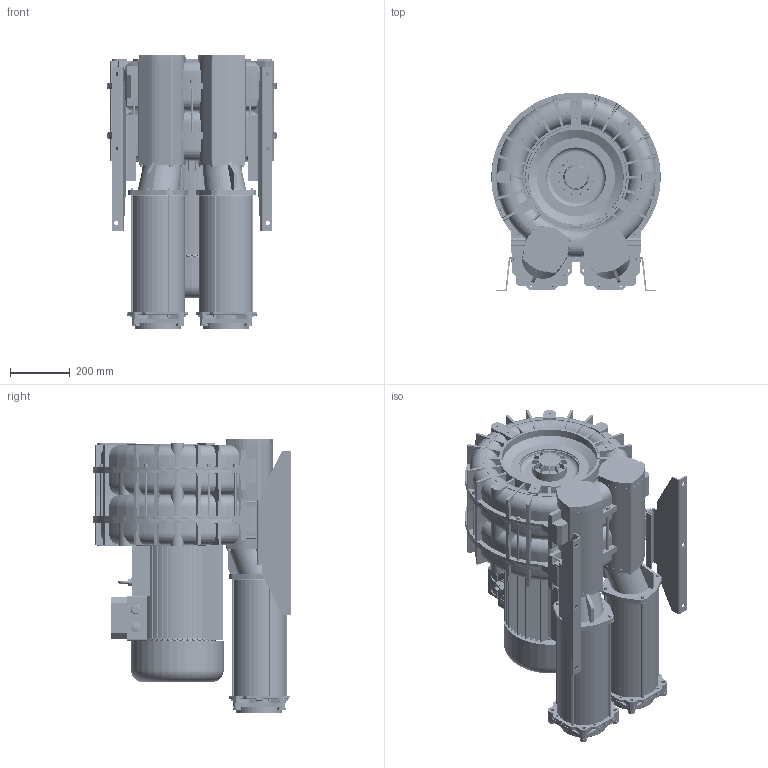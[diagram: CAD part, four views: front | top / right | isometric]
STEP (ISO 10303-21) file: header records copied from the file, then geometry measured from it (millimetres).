
FILE_DESCRIPTION (( 'STEP AP203' ), '1' );
FILE_NAME ('STP-L_e_12_TS_MOR_IE3WR_160_18.5kW-3_24-00.step', '2025-01-15T11:01:07', ( '' ), ( '' ), 'SwSTEP 2.0', 'SolidWorks 2024', '' );
FILE_SCHEMA (( 'CONFIG_CONTROL_DESIGN' ));
Length unit declared in the file: millimetre
Products named in the file (1): STP-L_e_12_TS_MOR_IE3WR_160_18.5kW-3_24-00
Bounding box: 568 x 666 x 921.5 mm (x, y, z)
Volume: 126089320 mm3; surface area: 6921115.8 mm2
Topology: 120 solids, 120 shells, 5257 faces, 13578 edges, 8511 vertices
Faces by surface type: plane 2227, cylinder 1281, bspline 697, cone 518, torus 493, sphere 41
Full cylindrical faces by diameter (mm): 6.8 x20, 7.5 x4, 8 x33, 8.4 x28, 8.5 x16, 8.566 x2, 8.8 x2, 9 x24, 9.728 x2, 9.98 x2, 10 x15, 11 x12, 12 x6, 12.02 x2, 13 x53, 14 x10, 16 x20, 17 x16, 18 x1, 19 x4, 24 x16, 24.4 x1, 27 x7, 28 x3, 32.5 x1, 33 x1, 90.4 x2, 94.7 x1, 115 x4, 120 x1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
Entity records: 193399 total; most frequent: CARTESIAN_POINT 76332, ORIENTED_EDGE 25222, DIRECTION 22525, EDGE_CURVE 12611, AXIS2_PLACEMENT_3D 8793, VERTEX_POINT 8290, EDGE_LOOP 6241, FACE_OUTER_BOUND 5681
